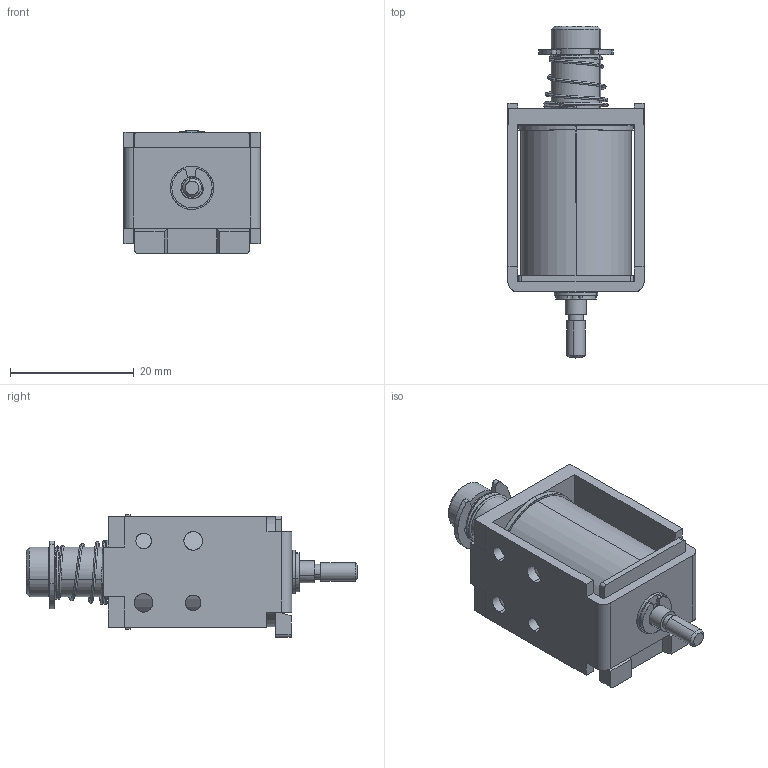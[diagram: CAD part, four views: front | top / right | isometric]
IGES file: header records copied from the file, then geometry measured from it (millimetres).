
Start section: SolidWorks IGES file using analytic representation for surfaces
Global section: file name: L:\カタログ\web用3Dデータ\CBS0830\3D_CBS0830\w_cbs0830.IGS; native system: SolidWorks 2014; preprocessor: SolidWorks 2014; author: jiba; date: 140725.110643; units: millimetre
Bounding box: 22 x 53.6 x 19.85 mm (x, y, z)
Surface area: 7814.7 mm2 (no closed solid volume)
Topology: 0 solids, 0 shells, 178 faces, 2602 edges, 2602 vertices
Faces by surface type: revolution 93, bspline 85
